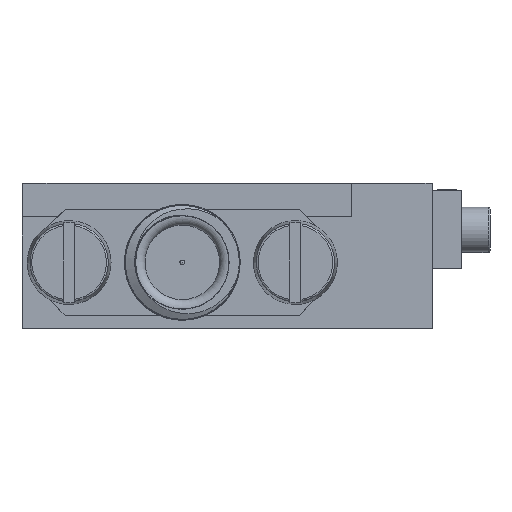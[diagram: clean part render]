
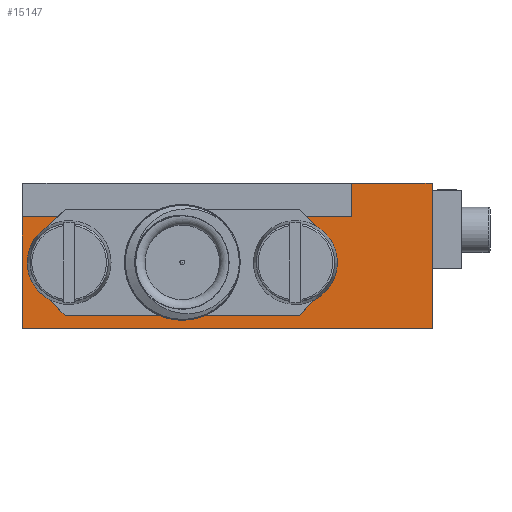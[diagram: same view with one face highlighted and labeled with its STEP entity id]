
A CAD part, front view. The second image highlights one B-rep face of the part: STEP entity #15147.
In plain terms, the highlighted planar face has unit normal (0, -1, 0).
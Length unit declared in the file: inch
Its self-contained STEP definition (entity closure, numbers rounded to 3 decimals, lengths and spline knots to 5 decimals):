
#939=PLANE('',#16223);
#1664=FACE_OUTER_BOUND('',#2564,.T.);
#2564=EDGE_LOOP('',(#12473,#12474,#12475,#12476,#12477,#12478,#12479,#12480,
#12481,#12482,#12483,#12484,#12485,#12486));
#4166=LINE('',#27568,#5182);
#4177=LINE('',#27591,#5193);
#4181=LINE('',#27598,#5197);
#4185=LINE('',#27606,#5201);
#4188=LINE('',#27613,#5204);
#4191=LINE('',#27617,#5207);
#4193=LINE('',#27620,#5209);
#4351=LINE('',#30692,#5367);
#4509=LINE('',#32250,#5525);
#4526=LINE('',#32309,#5542);
#4530=LINE('',#32317,#5546);
#4532=LINE('',#32320,#5548);
#4533=LINE('',#32321,#5549);
#4534=LINE('',#32322,#5550);
#5182=VECTOR('',#18422,0.3937);
#5193=VECTOR('',#18439,0.3937);
#5197=VECTOR('',#18445,0.3937);
#5201=VECTOR('',#18451,0.3937);
#5204=VECTOR('',#18456,0.3937);
#5207=VECTOR('',#18461,0.3937);
#5209=VECTOR('',#18465,0.3937);
#5367=VECTOR('',#18811,0.3937);
#5525=VECTOR('',#19063,0.3937);
#5542=VECTOR('',#19134,0.3937);
#5546=VECTOR('',#19142,0.3937);
#5548=VECTOR('',#19146,0.3937);
#5549=VECTOR('',#19147,0.3937);
#5550=VECTOR('',#19148,0.3937);
#6434=VERTEX_POINT('',#27565);
#6435=VERTEX_POINT('',#27567);
#6439=VERTEX_POINT('',#27579);
#6443=VERTEX_POINT('',#27588);
#6444=VERTEX_POINT('',#27590);
#6446=VERTEX_POINT('',#27596);
#6449=VERTEX_POINT('',#27604);
#6452=VERTEX_POINT('',#27612);
#6598=VERTEX_POINT('',#30689);
#6599=VERTEX_POINT('',#30691);
#6800=VERTEX_POINT('',#32247);
#6814=VERTEX_POINT('',#32306);
#6815=VERTEX_POINT('',#32308);
#6817=VERTEX_POINT('',#32316);
#8191=EDGE_CURVE('',#6435,#6434,#4166,.T.);
#8202=EDGE_CURVE('',#6444,#6443,#4177,.T.);
#8206=EDGE_CURVE('',#6443,#6446,#4181,.T.);
#8210=EDGE_CURVE('',#6446,#6449,#4185,.T.);
#8213=EDGE_CURVE('',#6452,#6439,#4188,.T.);
#8216=EDGE_CURVE('',#6449,#6452,#4191,.T.);
#8218=EDGE_CURVE('',#6434,#6444,#4193,.T.);
#8442=EDGE_CURVE('',#6598,#6599,#4351,.T.);
#8747=EDGE_CURVE('',#6800,#6599,#4509,.T.);
#8773=EDGE_CURVE('',#6814,#6815,#4526,.T.);
#8777=EDGE_CURVE('',#6817,#6800,#4530,.T.);
#8779=EDGE_CURVE('',#6439,#6815,#4532,.T.);
#8780=EDGE_CURVE('',#6814,#6817,#4533,.T.);
#8781=EDGE_CURVE('',#6598,#6435,#4534,.T.);
#12473=ORIENTED_EDGE('',*,*,#8213,.T.);
#12474=ORIENTED_EDGE('',*,*,#8779,.T.);
#12475=ORIENTED_EDGE('',*,*,#8773,.F.);
#12476=ORIENTED_EDGE('',*,*,#8780,.T.);
#12477=ORIENTED_EDGE('',*,*,#8777,.T.);
#12478=ORIENTED_EDGE('',*,*,#8747,.T.);
#12479=ORIENTED_EDGE('',*,*,#8442,.F.);
#12480=ORIENTED_EDGE('',*,*,#8781,.T.);
#12481=ORIENTED_EDGE('',*,*,#8191,.T.);
#12482=ORIENTED_EDGE('',*,*,#8218,.T.);
#12483=ORIENTED_EDGE('',*,*,#8202,.T.);
#12484=ORIENTED_EDGE('',*,*,#8206,.T.);
#12485=ORIENTED_EDGE('',*,*,#8210,.T.);
#12486=ORIENTED_EDGE('',*,*,#8216,.T.);
#15147=ADVANCED_FACE('',(#1664),#939,.T.);
#16223=AXIS2_PLACEMENT_3D('',#32319,#19144,#19145);
#18422=DIRECTION('',(0.707,0.,-0.707));
#18439=DIRECTION('',(-0.707,0.,-0.707));
#18445=DIRECTION('',(-1.,0.,0.));
#18451=DIRECTION('',(-0.707,0.,0.707));
#18456=DIRECTION('',(0.707,0.,0.707));
#18461=DIRECTION('',(0.,0.,1.));
#18465=DIRECTION('',(0.,0.,-1.));
#18811=DIRECTION('',(0.,0.,1.));
#19063=DIRECTION('',(-1.,0.,0.));
#19134=DIRECTION('',(0.,0.,1.));
#19142=DIRECTION('',(0.,0.,1.));
#19144=DIRECTION('center_axis',(0.,-1.,0.));
#19145=DIRECTION('ref_axis',(0.,0.,-1.));
#19146=DIRECTION('',(-1.,0.,0.));
#19147=DIRECTION('',(1.,0.,0.));
#19148=DIRECTION('',(-1.,0.,0.));
#27565=CARTESIAN_POINT('',(-0.03051,-0.22613,0.03304));
#27567=CARTESIAN_POINT('',(-0.08014,-0.22613,0.08268));
#27568=CARTESIAN_POINT('',(0.05366,-0.22613,-0.05113));
#27579=CARTESIAN_POINT('',(-0.60587,-0.22613,0.08268));
#27588=CARTESIAN_POINT('',(-0.09547,-0.22613,-0.125));
#27590=CARTESIAN_POINT('',(-0.03051,-0.22613,-0.06004));
#27591=CARTESIAN_POINT('',(-0.01636,-0.22613,-0.04589));
#27596=CARTESIAN_POINT('',(-0.59055,-0.22613,-0.125));
#27598=CARTESIAN_POINT('',(0.07702,-0.22613,-0.125));
#27604=CARTESIAN_POINT('',(-0.65551,-0.22613,-0.06004));
#27606=CARTESIAN_POINT('',(-0.40588,-0.22613,-0.30967));
#27612=CARTESIAN_POINT('',(-0.65551,-0.22613,0.03304));
#27613=CARTESIAN_POINT('',(-0.4759,-0.22613,0.21265));
#27617=CARTESIAN_POINT('',(-0.65551,-0.22613,-0.13927));
#27620=CARTESIAN_POINT('',(-0.03051,-0.22613,-0.02777));
#30689=CARTESIAN_POINT('',(0.01526,-0.22613,0.08268));
#30691=CARTESIAN_POINT('',(0.01526,-0.22613,0.15354));
#30692=CARTESIAN_POINT('',(0.01526,-0.22613,0.08268));
#32247=CARTESIAN_POINT('',(0.18455,-0.22613,0.15354));
#32250=CARTESIAN_POINT('',(0.01526,-0.22613,0.15354));
#32306=CARTESIAN_POINT('',(-0.68159,-0.22613,-0.15354));
#32308=CARTESIAN_POINT('',(-0.68159,-0.22613,0.08268));
#32309=CARTESIAN_POINT('',(-0.68159,-0.22613,-0.15354));
#32316=CARTESIAN_POINT('',(0.18455,-0.22613,-0.15354));
#32317=CARTESIAN_POINT('',(0.18455,-0.22613,-0.15354));
#32319=CARTESIAN_POINT('Origin',(0.18455,-0.22613,-0.15354));
#32320=CARTESIAN_POINT('',(-0.68159,-0.22613,0.08268));
#32321=CARTESIAN_POINT('',(-0.68159,-0.22613,-0.15354));
#32322=CARTESIAN_POINT('',(-0.68159,-0.22613,0.08268));
